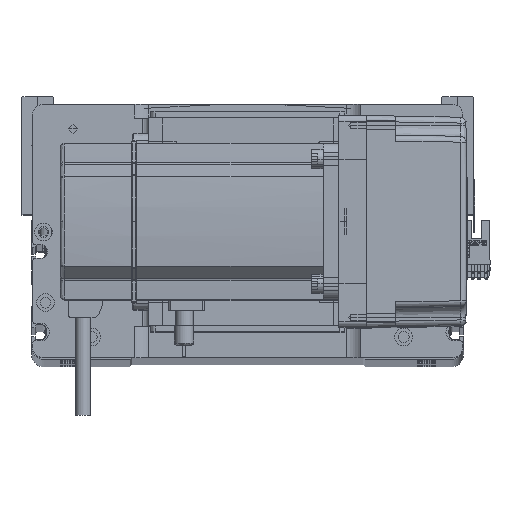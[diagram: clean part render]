
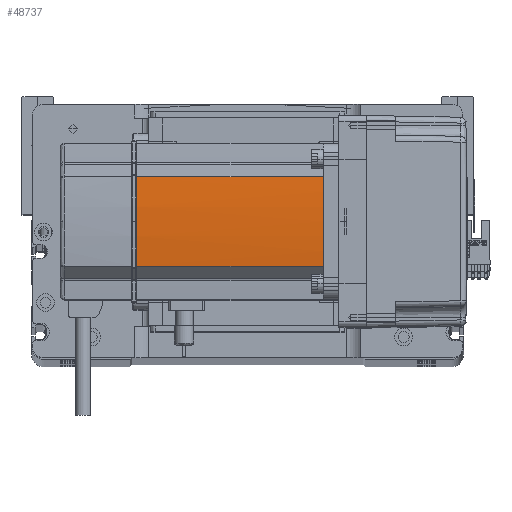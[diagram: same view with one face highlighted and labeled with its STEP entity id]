
A CAD part, top view. The second image highlights one B-rep face of the part: STEP entity #48737.
In plain terms, the highlighted cylindrical face has radius 270 mm (diameter 540 mm), a partial arc.
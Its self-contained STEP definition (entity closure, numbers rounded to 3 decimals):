
#290 = DIRECTION ( 'NONE',  ( 0., 0., -1. ) ) ;
#1043 = AXIS2_PLACEMENT_3D ( 'NONE', #8989, #5415, #35374 ) ;
#3846 = ORIENTED_EDGE ( 'NONE', *, *, #37856, .F. ) ;
#3989 = EDGE_CURVE ( 'NONE', #46524, #38089, #37615, .T. ) ;
#4039 = DIRECTION ( 'NONE',  ( 1., 0., 0. ) ) ;
#4242 = DIRECTION ( 'NONE',  ( 1., 0., 0. ) ) ;
#5247 = EDGE_CURVE ( 'NONE', #50330, #46524, #15329, .T. ) ;
#5415 = DIRECTION ( 'NONE',  ( 0., 0., -1. ) ) ;
#8610 = DIRECTION ( 'NONE',  ( 1., 0., 0. ) ) ;
#8989 = CARTESIAN_POINT ( 'NONE',  ( 230., 0., 134. ) ) ;
#10046 = CARTESIAN_POINT ( 'NONE',  ( -39.042, 22.724, 39. ) ) ;
#11718 = DIRECTION ( 'NONE',  ( 0., 0., -1. ) ) ;
#13320 = DIRECTION ( 'NONE',  ( 0., 0., 1. ) ) ;
#13589 = FACE_OUTER_BOUND ( 'NONE', #15360, .T. ) ;
#15329 = CIRCLE ( 'NONE', #1043, 270. ) ;
#15360 = EDGE_LOOP ( 'NONE', ( #53626, #52007, #54227, #3846, #50063 ) ) ;
#15392 = AXIS2_PLACEMENT_3D ( 'NONE', #17423, #13320, #8610 ) ;
#16012 = CARTESIAN_POINT ( 'NONE',  ( -39.042, -22.724, 134. ) ) ;
#16048 = EDGE_CURVE ( 'NONE', #25154, #50330, #51316, .T. ) ;
#16992 = DIRECTION ( 'NONE',  ( 0., 0., -1. ) ) ;
#17423 = CARTESIAN_POINT ( 'NONE',  ( 230., 0., 0. ) ) ;
#20038 = AXIS2_PLACEMENT_3D ( 'NONE', #55555, #16992, #4242 ) ;
#20148 = AXIS2_PLACEMENT_3D ( 'NONE', #21060, #290, #4039 ) ;
#20838 = CARTESIAN_POINT ( 'NONE',  ( -39.042, 22.724, 134. ) ) ;
#21060 = CARTESIAN_POINT ( 'NONE',  ( 230., 0., 134. ) ) ;
#22099 = CARTESIAN_POINT ( 'NONE',  ( -39.042, -22.724, 39. ) ) ;
#22673 = CARTESIAN_POINT ( 'NONE',  ( -39.042, -22.724, 0. ) ) ;
#25154 = VERTEX_POINT ( 'NONE', #16012 ) ;
#28827 = CIRCLE ( 'NONE', #20038, 270. ) ;
#33094 = EDGE_CURVE ( 'NONE', #48765, #25154, #34262, .T. ) ;
#34262 = LINE ( 'NONE', #22673, #36932 ) ;
#35374 = DIRECTION ( 'NONE',  ( 1., 0., 0. ) ) ;
#36932 = VECTOR ( 'NONE', #39148, 1000. ) ;
#37615 = LINE ( 'NONE', #46703, #55014 ) ;
#37856 = EDGE_CURVE ( 'NONE', #48765, #38089, #28827, .T. ) ;
#38089 = VERTEX_POINT ( 'NONE', #10046 ) ;
#38368 = CARTESIAN_POINT ( 'NONE',  ( -40., 0., 134. ) ) ;
#39148 = DIRECTION ( 'NONE',  ( 0., 0., 1. ) ) ;
#46524 = VERTEX_POINT ( 'NONE', #20838 ) ;
#46703 = CARTESIAN_POINT ( 'NONE',  ( -39.042, 22.724, 0. ) ) ;
#47728 = CYLINDRICAL_SURFACE ( 'NONE', #15392, 270. ) ;
#48737 = ADVANCED_FACE ( 'NONE', ( #13589 ), #47728, .T. ) ;
#48765 = VERTEX_POINT ( 'NONE', #22099 ) ;
#50063 = ORIENTED_EDGE ( 'NONE', *, *, #33094, .T. ) ;
#50330 = VERTEX_POINT ( 'NONE', #38368 ) ;
#51316 = CIRCLE ( 'NONE', #20148, 270. ) ;
#52007 = ORIENTED_EDGE ( 'NONE', *, *, #5247, .T. ) ;
#53626 = ORIENTED_EDGE ( 'NONE', *, *, #16048, .T. ) ;
#54227 = ORIENTED_EDGE ( 'NONE', *, *, #3989, .T. ) ;
#55014 = VECTOR ( 'NONE', #11718, 1000. ) ;
#55555 = CARTESIAN_POINT ( 'NONE',  ( 230., 0., 39. ) ) ;
